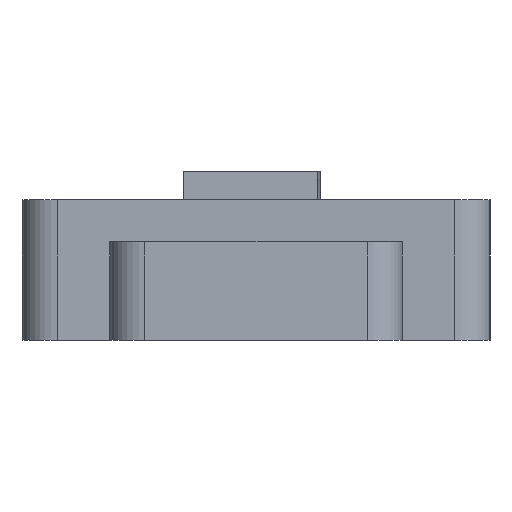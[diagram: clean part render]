
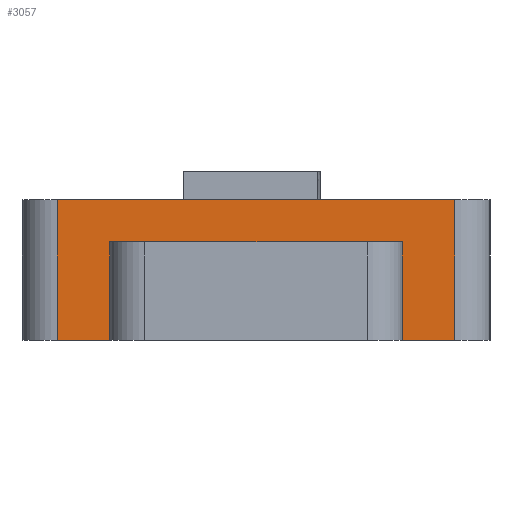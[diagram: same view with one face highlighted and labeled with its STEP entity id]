
A CAD part, left-side view. The second image highlights one B-rep face of the part: STEP entity #3057.
In plain terms, the highlighted planar face has unit normal (-1, 0, 0).
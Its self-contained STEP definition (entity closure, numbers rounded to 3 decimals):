
#62 = PLANE('',#63);
#63 = AXIS2_PLACEMENT_3D('',#64,#65,#66);
#64 = CARTESIAN_POINT('',(0.,0.,0.));
#65 = DIRECTION('',(0.,0.,1.));
#66 = DIRECTION('',(1.,0.,-0.));
#90 = CYLINDRICAL_SURFACE('',#91,0.6);
#91 = AXIS2_PLACEMENT_3D('',#92,#93,#94);
#92 = CARTESIAN_POINT('',(-14.25,-3.4,0.));
#93 = DIRECTION('',(0.,0.,1.));
#94 = DIRECTION('',(0.,-1.,0.));
#118 = PLANE('',#119);
#119 = AXIS2_PLACEMENT_3D('',#120,#121,#122);
#120 = CARTESIAN_POINT('',(0.,0.,2.4));
#121 = DIRECTION('',(0.,0.,1.));
#122 = DIRECTION('',(1.,0.,-0.));
#160 = VERTEX_POINT('',#161);
#161 = CARTESIAN_POINT('',(-14.85,-3.4,0.));
#463 = VERTEX_POINT('',#464);
#464 = CARTESIAN_POINT('',(-14.85,3.4,0.));
#479 = CYLINDRICAL_SURFACE('',#480,0.6);
#480 = AXIS2_PLACEMENT_3D('',#481,#482,#483);
#481 = CARTESIAN_POINT('',(-14.25,3.4,0.));
#482 = DIRECTION('',(0.,0.,1.));
#483 = DIRECTION('',(-0.,1.,0.));
#491 = EDGE_CURVE('',#463,#492,#494,.T.);
#492 = VERTEX_POINT('',#493);
#493 = CARTESIAN_POINT('',(-14.85,2.5,0.));
#494 = SURFACE_CURVE('',#495,(#499,#506),.PCURVE_S1.);
#495 = LINE('',#496,#497);
#496 = CARTESIAN_POINT('',(-14.85,4.,0.));
#497 = VECTOR('',#498,1.);
#498 = DIRECTION('',(0.,-1.,0.));
#499 = PCURVE('',#62,#500);
#500 = DEFINITIONAL_REPRESENTATION('',(#501),#505);
#501 = LINE('',#502,#503);
#502 = CARTESIAN_POINT('',(-14.85,4.));
#503 = VECTOR('',#504,1.);
#504 = DIRECTION('',(0.,-1.));
#505 = ( GEOMETRIC_REPRESENTATION_CONTEXT(2) 
PARAMETRIC_REPRESENTATION_CONTEXT() REPRESENTATION_CONTEXT('2D SPACE',''
  ) );
#506 = PCURVE('',#507,#512);
#507 = PLANE('',#508);
#508 = AXIS2_PLACEMENT_3D('',#509,#510,#511);
#509 = CARTESIAN_POINT('',(-14.85,4.,0.));
#510 = DIRECTION('',(1.,0.,-0.));
#511 = DIRECTION('',(0.,-1.,0.));
#512 = DEFINITIONAL_REPRESENTATION('',(#513),#517);
#513 = LINE('',#514,#515);
#514 = CARTESIAN_POINT('',(0.,0.));
#515 = VECTOR('',#516,1.);
#516 = DIRECTION('',(1.,0.));
#517 = ( GEOMETRIC_REPRESENTATION_CONTEXT(2) 
PARAMETRIC_REPRESENTATION_CONTEXT() REPRESENTATION_CONTEXT('2D SPACE',''
  ) );
#535 = PLANE('',#536);
#536 = AXIS2_PLACEMENT_3D('',#537,#538,#539);
#537 = CARTESIAN_POINT('',(-13.85,2.5,0.));
#538 = DIRECTION('',(0.,-1.,0.));
#539 = DIRECTION('',(-1.,0.,0.));
#638 = VERTEX_POINT('',#639);
#639 = CARTESIAN_POINT('',(-14.85,-2.5,0.));
#653 = PLANE('',#654);
#654 = AXIS2_PLACEMENT_3D('',#655,#656,#657);
#655 = CARTESIAN_POINT('',(-17.25,-2.5,0.));
#656 = DIRECTION('',(0.,1.,0.));
#657 = DIRECTION('',(1.,0.,0.));
#665 = EDGE_CURVE('',#638,#160,#666,.T.);
#666 = SURFACE_CURVE('',#667,(#671,#678),.PCURVE_S1.);
#667 = LINE('',#668,#669);
#668 = CARTESIAN_POINT('',(-14.85,4.,0.));
#669 = VECTOR('',#670,1.);
#670 = DIRECTION('',(0.,-1.,0.));
#671 = PCURVE('',#62,#672);
#672 = DEFINITIONAL_REPRESENTATION('',(#673),#677);
#673 = LINE('',#674,#675);
#674 = CARTESIAN_POINT('',(-14.85,4.));
#675 = VECTOR('',#676,1.);
#676 = DIRECTION('',(0.,-1.));
#677 = ( GEOMETRIC_REPRESENTATION_CONTEXT(2) 
PARAMETRIC_REPRESENTATION_CONTEXT() REPRESENTATION_CONTEXT('2D SPACE',''
  ) );
#678 = PCURVE('',#507,#679);
#679 = DEFINITIONAL_REPRESENTATION('',(#680),#684);
#680 = LINE('',#681,#682);
#681 = CARTESIAN_POINT('',(0.,0.));
#682 = VECTOR('',#683,1.);
#683 = DIRECTION('',(1.,0.));
#684 = ( GEOMETRIC_REPRESENTATION_CONTEXT(2) 
PARAMETRIC_REPRESENTATION_CONTEXT() REPRESENTATION_CONTEXT('2D SPACE',''
  ) );
#690 = EDGE_CURVE('',#160,#691,#693,.T.);
#691 = VERTEX_POINT('',#692);
#692 = CARTESIAN_POINT('',(-14.85,-3.4,2.4));
#693 = SURFACE_CURVE('',#694,(#698,#705),.PCURVE_S1.);
#694 = LINE('',#695,#696);
#695 = CARTESIAN_POINT('',(-14.85,-3.4,0.));
#696 = VECTOR('',#697,1.);
#697 = DIRECTION('',(0.,0.,1.));
#698 = PCURVE('',#90,#699);
#699 = DEFINITIONAL_REPRESENTATION('',(#700),#704);
#700 = LINE('',#701,#702);
#701 = CARTESIAN_POINT('',(-1.571,0.));
#702 = VECTOR('',#703,1.);
#703 = DIRECTION('',(-0.,1.));
#704 = ( GEOMETRIC_REPRESENTATION_CONTEXT(2) 
PARAMETRIC_REPRESENTATION_CONTEXT() REPRESENTATION_CONTEXT('2D SPACE',''
  ) );
#705 = PCURVE('',#507,#706);
#706 = DEFINITIONAL_REPRESENTATION('',(#707),#711);
#707 = LINE('',#708,#709);
#708 = CARTESIAN_POINT('',(7.4,0.));
#709 = VECTOR('',#710,1.);
#710 = DIRECTION('',(0.,-1.));
#711 = ( GEOMETRIC_REPRESENTATION_CONTEXT(2) 
PARAMETRIC_REPRESENTATION_CONTEXT() REPRESENTATION_CONTEXT('2D SPACE',''
  ) );
#866 = VERTEX_POINT('',#867);
#867 = CARTESIAN_POINT('',(-14.85,3.4,2.4));
#889 = EDGE_CURVE('',#866,#691,#890,.T.);
#890 = SURFACE_CURVE('',#891,(#895,#902),.PCURVE_S1.);
#891 = LINE('',#892,#893);
#892 = CARTESIAN_POINT('',(-14.85,4.,2.4));
#893 = VECTOR('',#894,1.);
#894 = DIRECTION('',(0.,-1.,0.));
#895 = PCURVE('',#118,#896);
#896 = DEFINITIONAL_REPRESENTATION('',(#897),#901);
#897 = LINE('',#898,#899);
#898 = CARTESIAN_POINT('',(-14.85,4.));
#899 = VECTOR('',#900,1.);
#900 = DIRECTION('',(0.,-1.));
#901 = ( GEOMETRIC_REPRESENTATION_CONTEXT(2) 
PARAMETRIC_REPRESENTATION_CONTEXT() REPRESENTATION_CONTEXT('2D SPACE',''
  ) );
#902 = PCURVE('',#507,#903);
#903 = DEFINITIONAL_REPRESENTATION('',(#904),#908);
#904 = LINE('',#905,#906);
#905 = CARTESIAN_POINT('',(0.,-2.4));
#906 = VECTOR('',#907,1.);
#907 = DIRECTION('',(1.,0.));
#908 = ( GEOMETRIC_REPRESENTATION_CONTEXT(2) 
PARAMETRIC_REPRESENTATION_CONTEXT() REPRESENTATION_CONTEXT('2D SPACE',''
  ) );
#3057 = ADVANCED_FACE('',(#3058),#507,.F.);
#3058 = FACE_BOUND('',#3059,.F.);
#3059 = EDGE_LOOP('',(#3060,#3061,#3082,#3083,#3084,#3085,#3106,#3132));
#3060 = ORIENTED_EDGE('',*,*,#491,.F.);
#3061 = ORIENTED_EDGE('',*,*,#3062,.T.);
#3062 = EDGE_CURVE('',#463,#866,#3063,.T.);
#3063 = SURFACE_CURVE('',#3064,(#3068,#3075),.PCURVE_S1.);
#3064 = LINE('',#3065,#3066);
#3065 = CARTESIAN_POINT('',(-14.85,3.4,0.));
#3066 = VECTOR('',#3067,1.);
#3067 = DIRECTION('',(0.,0.,1.));
#3068 = PCURVE('',#507,#3069);
#3069 = DEFINITIONAL_REPRESENTATION('',(#3070),#3074);
#3070 = LINE('',#3071,#3072);
#3071 = CARTESIAN_POINT('',(0.6,0.));
#3072 = VECTOR('',#3073,1.);
#3073 = DIRECTION('',(0.,-1.));
#3074 = ( GEOMETRIC_REPRESENTATION_CONTEXT(2) 
PARAMETRIC_REPRESENTATION_CONTEXT() REPRESENTATION_CONTEXT('2D SPACE',''
  ) );
#3075 = PCURVE('',#479,#3076);
#3076 = DEFINITIONAL_REPRESENTATION('',(#3077),#3081);
#3077 = LINE('',#3078,#3079);
#3078 = CARTESIAN_POINT('',(1.571,0.));
#3079 = VECTOR('',#3080,1.);
#3080 = DIRECTION('',(0.,1.));
#3081 = ( GEOMETRIC_REPRESENTATION_CONTEXT(2) 
PARAMETRIC_REPRESENTATION_CONTEXT() REPRESENTATION_CONTEXT('2D SPACE',''
  ) );
#3082 = ORIENTED_EDGE('',*,*,#889,.T.);
#3083 = ORIENTED_EDGE('',*,*,#690,.F.);
#3084 = ORIENTED_EDGE('',*,*,#665,.F.);
#3085 = ORIENTED_EDGE('',*,*,#3086,.T.);
#3086 = EDGE_CURVE('',#638,#3087,#3089,.T.);
#3087 = VERTEX_POINT('',#3088);
#3088 = CARTESIAN_POINT('',(-14.85,-2.5,1.68));
#3089 = SURFACE_CURVE('',#3090,(#3094,#3100),.PCURVE_S1.);
#3090 = LINE('',#3091,#3092);
#3091 = CARTESIAN_POINT('',(-14.85,-2.5,0.));
#3092 = VECTOR('',#3093,1.);
#3093 = DIRECTION('',(0.,-0.,1.));
#3094 = PCURVE('',#507,#3095);
#3095 = DEFINITIONAL_REPRESENTATION('',(#3096),#3099);
#3096 = B_SPLINE_CURVE_WITH_KNOTS('',1,(#3097,#3098),.UNSPECIFIED.,.F.,
  .F.,(2,2),(0.,1.68),.PIECEWISE_BEZIER_KNOTS.);
#3097 = CARTESIAN_POINT('',(6.5,0.));
#3098 = CARTESIAN_POINT('',(6.5,-1.68));
#3099 = ( GEOMETRIC_REPRESENTATION_CONTEXT(2) 
PARAMETRIC_REPRESENTATION_CONTEXT() REPRESENTATION_CONTEXT('2D SPACE',''
  ) );
#3100 = PCURVE('',#653,#3101);
#3101 = DEFINITIONAL_REPRESENTATION('',(#3102),#3105);
#3102 = B_SPLINE_CURVE_WITH_KNOTS('',1,(#3103,#3104),.UNSPECIFIED.,.F.,
  .F.,(2,2),(0.,1.68),.PIECEWISE_BEZIER_KNOTS.);
#3103 = CARTESIAN_POINT('',(2.4,0.));
#3104 = CARTESIAN_POINT('',(2.4,-1.68));
#3105 = ( GEOMETRIC_REPRESENTATION_CONTEXT(2) 
PARAMETRIC_REPRESENTATION_CONTEXT() REPRESENTATION_CONTEXT('2D SPACE',''
  ) );
#3106 = ORIENTED_EDGE('',*,*,#3107,.F.);
#3107 = EDGE_CURVE('',#3108,#3087,#3110,.T.);
#3108 = VERTEX_POINT('',#3109);
#3109 = CARTESIAN_POINT('',(-14.85,2.5,1.68));
#3110 = SURFACE_CURVE('',#3111,(#3115,#3121),.PCURVE_S1.);
#3111 = LINE('',#3112,#3113);
#3112 = CARTESIAN_POINT('',(-14.85,2.,1.68));
#3113 = VECTOR('',#3114,1.);
#3114 = DIRECTION('',(0.,-1.,0.));
#3115 = PCURVE('',#507,#3116);
#3116 = DEFINITIONAL_REPRESENTATION('',(#3117),#3120);
#3117 = B_SPLINE_CURVE_WITH_KNOTS('',1,(#3118,#3119),.UNSPECIFIED.,.F.,
  .F.,(2,2),(-0.5,4.5),.PIECEWISE_BEZIER_KNOTS.);
#3118 = CARTESIAN_POINT('',(1.5,-1.68));
#3119 = CARTESIAN_POINT('',(6.5,-1.68));
#3120 = ( GEOMETRIC_REPRESENTATION_CONTEXT(2) 
PARAMETRIC_REPRESENTATION_CONTEXT() REPRESENTATION_CONTEXT('2D SPACE',''
  ) );
#3121 = PCURVE('',#3122,#3127);
#3122 = PLANE('',#3123);
#3123 = AXIS2_PLACEMENT_3D('',#3124,#3125,#3126);
#3124 = CARTESIAN_POINT('',(-15.55,0.,1.68));
#3125 = DIRECTION('',(0.,0.,1.));
#3126 = DIRECTION('',(1.,0.,-0.));
#3127 = DEFINITIONAL_REPRESENTATION('',(#3128),#3131);
#3128 = B_SPLINE_CURVE_WITH_KNOTS('',1,(#3129,#3130),.UNSPECIFIED.,.F.,
  .F.,(2,2),(-0.5,4.5),.PIECEWISE_BEZIER_KNOTS.);
#3129 = CARTESIAN_POINT('',(0.7,2.5));
#3130 = CARTESIAN_POINT('',(0.7,-2.5));
#3131 = ( GEOMETRIC_REPRESENTATION_CONTEXT(2) 
PARAMETRIC_REPRESENTATION_CONTEXT() REPRESENTATION_CONTEXT('2D SPACE',''
  ) );
#3132 = ORIENTED_EDGE('',*,*,#3133,.T.);
#3133 = EDGE_CURVE('',#3108,#492,#3134,.T.);
#3134 = SURFACE_CURVE('',#3135,(#3139,#3145),.PCURVE_S1.);
#3135 = LINE('',#3136,#3137);
#3136 = CARTESIAN_POINT('',(-14.85,2.5,0.));
#3137 = VECTOR('',#3138,1.);
#3138 = DIRECTION('',(0.,-0.,-1.));
#3139 = PCURVE('',#507,#3140);
#3140 = DEFINITIONAL_REPRESENTATION('',(#3141),#3144);
#3141 = B_SPLINE_CURVE_WITH_KNOTS('',1,(#3142,#3143),.UNSPECIFIED.,.F.,
  .F.,(2,2),(-1.68,0.),.PIECEWISE_BEZIER_KNOTS.);
#3142 = CARTESIAN_POINT('',(1.5,-1.68));
#3143 = CARTESIAN_POINT('',(1.5,0.));
#3144 = ( GEOMETRIC_REPRESENTATION_CONTEXT(2) 
PARAMETRIC_REPRESENTATION_CONTEXT() REPRESENTATION_CONTEXT('2D SPACE',''
  ) );
#3145 = PCURVE('',#535,#3146);
#3146 = DEFINITIONAL_REPRESENTATION('',(#3147),#3150);
#3147 = B_SPLINE_CURVE_WITH_KNOTS('',1,(#3148,#3149),.UNSPECIFIED.,.F.,
  .F.,(2,2),(-1.68,0.),.PIECEWISE_BEZIER_KNOTS.);
#3148 = CARTESIAN_POINT('',(1.,-1.68));
#3149 = CARTESIAN_POINT('',(1.,0.));
#3150 = ( GEOMETRIC_REPRESENTATION_CONTEXT(2) 
PARAMETRIC_REPRESENTATION_CONTEXT() REPRESENTATION_CONTEXT('2D SPACE',''
  ) );
